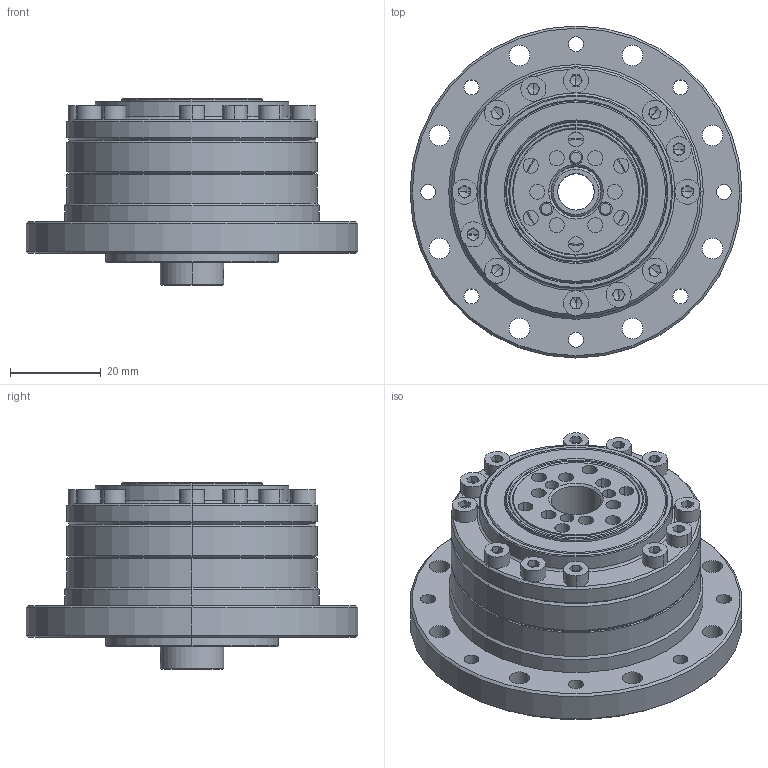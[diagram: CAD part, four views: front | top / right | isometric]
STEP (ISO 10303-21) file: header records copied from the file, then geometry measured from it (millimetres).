
FILE_DESCRIPTION (( 'STEP AP203' ), '1' );
FILE_NAME ('FCG-14-XXX-AJ.STEP', '2023-01-16T03:50:51', ( '微软用户' ), ( '微软中国' ), 'SwSTEP 2.0', 'SolidWorks 2016', '' );
FILE_SCHEMA (( 'CONFIG_CONTROL_DESIGN' ));
Length unit declared in the file: millimetre
Products named in the file (1): FCG-14-XXX-AJ
Bounding box: 73 x 73 x 41 mm (x, y, z)
Volume: 69248.3 mm3; surface area: 56828.2 mm2
Topology: 59 solids, 59 shells, 1066 faces, 2564 edges, 1581 vertices
Faces by surface type: cylinder 424, plane 344, cone 176, torus 52, sphere 46, bspline 24
Entity records: 31216 total; most frequent: CARTESIAN_POINT 6002, DIRECTION 5775, ORIENTED_EDGE 4818, EDGE_CURVE 2409, AXIS2_PLACEMENT_3D 2363, VERTEX_POINT 1512, CIRCLE 1320, EDGE_LOOP 1293
